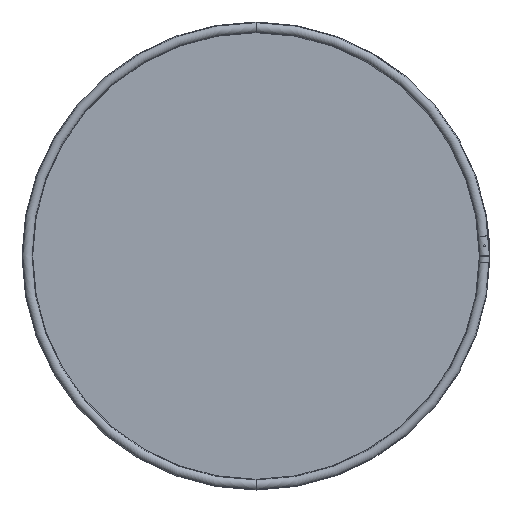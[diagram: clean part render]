
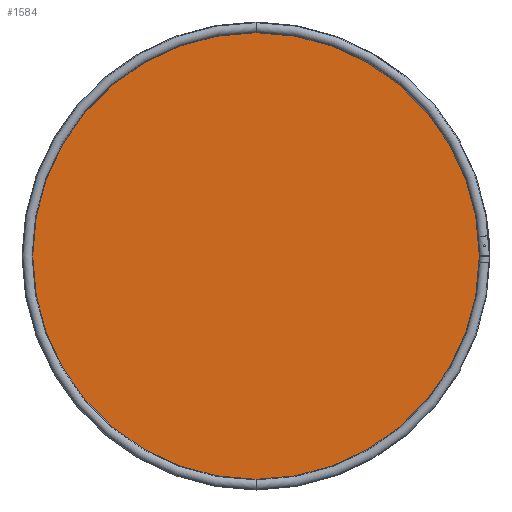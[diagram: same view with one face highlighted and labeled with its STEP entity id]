
A CAD part, front view. The second image highlights one B-rep face of the part: STEP entity #1584.
In plain terms, the highlighted planar face has unit normal (0, -1, 0) as drawn and (0, 0, -1) by its records, which use the part's own axes.
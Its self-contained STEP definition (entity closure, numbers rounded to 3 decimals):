
#150 = EDGE_LOOP ( 'NONE', ( #19534, #14577 ) ) ;
#1584 = ADVANCED_FACE ( 'NONE', ( #3806 ), #13899, .F. ) ;
#3073 = AXIS2_PLACEMENT_3D ( 'NONE', #4878, #3106, #9827 ) ;
#3106 = DIRECTION ( 'NONE',  ( 0., 0., 1. ) ) ;
#3806 = FACE_OUTER_BOUND ( 'NONE', #150, .T. ) ;
#4878 = CARTESIAN_POINT ( 'NONE',  ( 342., 0., -11. ) ) ;
#5900 = VERTEX_POINT ( 'NONE', #10880 ) ;
#6213 = VERTEX_POINT ( 'NONE', #16665 ) ;
#7240 = CARTESIAN_POINT ( 'NONE',  ( 342., 0., -11. ) ) ;
#9827 = DIRECTION ( 'NONE',  ( 1., 0., 0. ) ) ;
#9999 = EDGE_CURVE ( 'NONE', #5900, #6213, #10448, .T. ) ;
#10448 = CIRCLE ( 'NONE', #3073, 342. ) ;
#10505 = DIRECTION ( 'NONE',  ( 0., 0., 1. ) ) ;
#10880 = CARTESIAN_POINT ( 'NONE',  ( 0., 0., -11. ) ) ;
#11291 = AXIS2_PLACEMENT_3D ( 'NONE', #13881, #20587, #21213 ) ;
#13881 = CARTESIAN_POINT ( 'NONE',  ( 342., 0., -11. ) ) ;
#13899 = PLANE ( 'NONE',  #19200 ) ;
#14577 = ORIENTED_EDGE ( 'NONE', *, *, #9999, .F. ) ;
#16131 = EDGE_CURVE ( 'NONE', #6213, #5900, #17943, .T. ) ;
#16665 = CARTESIAN_POINT ( 'NONE',  ( 684., 0., -11. ) ) ;
#17943 = CIRCLE ( 'NONE', #11291, 342. ) ;
#19200 = AXIS2_PLACEMENT_3D ( 'NONE', #7240, #10505, #20381 ) ;
#19534 = ORIENTED_EDGE ( 'NONE', *, *, #16131, .F. ) ;
#20381 = DIRECTION ( 'NONE',  ( 1., 0., 0. ) ) ;
#20587 = DIRECTION ( 'NONE',  ( 0., 0., 1. ) ) ;
#21213 = DIRECTION ( 'NONE',  ( 1., 0., 0. ) ) ;
